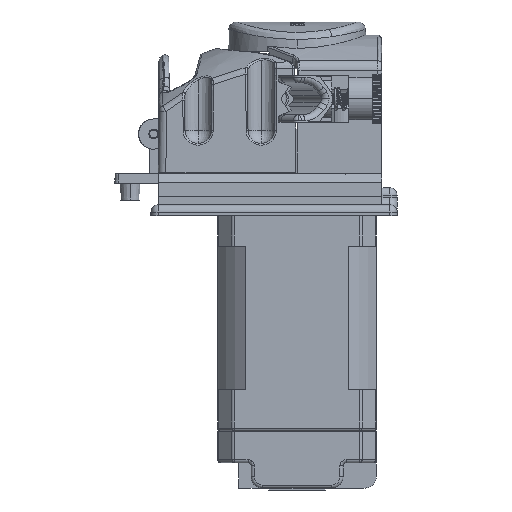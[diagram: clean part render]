
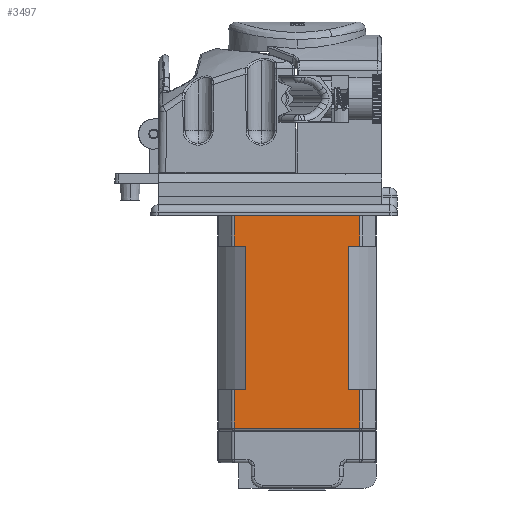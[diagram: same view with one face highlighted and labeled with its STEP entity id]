
A CAD part, left-side view. The second image highlights one B-rep face of the part: STEP entity #3497.
In plain terms, the highlighted planar face has unit normal (-1, 0, 0).
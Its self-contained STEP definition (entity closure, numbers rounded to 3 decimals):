
#1457 = CARTESIAN_POINT ( 'NONE',  ( -21., 16.669, -65.15 ) ) ;
#1745 = VERTEX_POINT ( 'NONE', #8062 ) ;
#2028 = ORIENTED_EDGE ( 'NONE', *, *, #34001, .T. ) ;
#2205 = DIRECTION ( 'NONE',  ( 0., -1., 0. ) ) ;
#2294 = CARTESIAN_POINT ( 'NONE',  ( -21., -13.565, -16.15 ) ) ;
#2759 = DIRECTION ( 'NONE',  ( 0., 1., 0. ) ) ;
#2805 = VECTOR ( 'NONE', #10081, 1000. ) ;
#3497 = ADVANCED_FACE ( 'NONE', ( #62953 ), #48570, .F. ) ;
#4245 = CARTESIAN_POINT ( 'NONE',  ( -21., -16.669, -64.35 ) ) ;
#4365 = CARTESIAN_POINT ( 'NONE',  ( -21., 16.669, -64.35 ) ) ;
#5039 = VECTOR ( 'NONE', #38206, 1000. ) ;
#5194 = VECTOR ( 'NONE', #62608, 1000. ) ;
#5787 = CARTESIAN_POINT ( 'NONE',  ( -21., 21., -54.15 ) ) ;
#6078 = VERTEX_POINT ( 'NONE', #41397 ) ;
#6083 = EDGE_CURVE ( 'NONE', #20570, #9666, #64458, .T. ) ;
#6172 = VERTEX_POINT ( 'NONE', #2294 ) ;
#6666 = EDGE_CURVE ( 'NONE', #6172, #20570, #29924, .T. ) ;
#8062 = CARTESIAN_POINT ( 'NONE',  ( -21., 16.669, -16.15 ) ) ;
#8867 = LINE ( 'NONE', #62907, #36016 ) ;
#9666 = VERTEX_POINT ( 'NONE', #34396 ) ;
#9787 = EDGE_LOOP ( 'NONE', ( #22144, #31396, #58029, #2028, #37862, #10813, #50037, #29170, #37605, #60037, #23975, #30200 ) ) ;
#10081 = DIRECTION ( 'NONE',  ( 0., -1., 0. ) ) ;
#10813 = ORIENTED_EDGE ( 'NONE', *, *, #40671, .F. ) ;
#11631 = VECTOR ( 'NONE', #51744, 1000. ) ;
#12235 = VECTOR ( 'NONE', #2205, 1000. ) ;
#14288 = CARTESIAN_POINT ( 'NONE',  ( -21., -13.565, -54.15 ) ) ;
#14308 = LINE ( 'NONE', #52596, #65535 ) ;
#14521 = EDGE_CURVE ( 'NONE', #6078, #16062, #25729, .T. ) ;
#15015 = CARTESIAN_POINT ( 'NONE',  ( -21., -16.669, -54.15 ) ) ;
#16010 = DIRECTION ( 'NONE',  ( 0., -1., 0. ) ) ;
#16062 = VERTEX_POINT ( 'NONE', #15015 ) ;
#16082 = CARTESIAN_POINT ( 'NONE',  ( -21., 21., -16.15 ) ) ;
#16436 = EDGE_CURVE ( 'NONE', #6172, #6078, #52072, .T. ) ;
#16454 = VERTEX_POINT ( 'NONE', #4245 ) ;
#17283 = CARTESIAN_POINT ( 'NONE',  ( -21., 21., -64.35 ) ) ;
#20570 = VERTEX_POINT ( 'NONE', #60720 ) ;
#21881 = CARTESIAN_POINT ( 'NONE',  ( -21., -16.669, -54.15 ) ) ;
#21921 = DIRECTION ( 'NONE',  ( 0., 0., -1. ) ) ;
#22144 = ORIENTED_EDGE ( 'NONE', *, *, #6666, .T. ) ;
#22427 = DIRECTION ( 'NONE',  ( 0., -1., 0. ) ) ;
#23975 = ORIENTED_EDGE ( 'NONE', *, *, #14521, .F. ) ;
#24382 = VERTEX_POINT ( 'NONE', #56853 ) ;
#24892 = VECTOR ( 'NONE', #16010, 1000. ) ;
#25729 = LINE ( 'NONE', #32808, #12235 ) ;
#27696 = EDGE_CURVE ( 'NONE', #50901, #16454, #42320, .T. ) ;
#29170 = ORIENTED_EDGE ( 'NONE', *, *, #65227, .T. ) ;
#29924 = LINE ( 'NONE', #30839, #2805 ) ;
#30179 = CARTESIAN_POINT ( 'NONE',  ( -21., 16.669, -5.95 ) ) ;
#30200 = ORIENTED_EDGE ( 'NONE', *, *, #16436, .F. ) ;
#30839 = CARTESIAN_POINT ( 'NONE',  ( -21., 21., -16.15 ) ) ;
#31396 = ORIENTED_EDGE ( 'NONE', *, *, #6083, .T. ) ;
#32205 = VERTEX_POINT ( 'NONE', #37158 ) ;
#32218 = EDGE_CURVE ( 'NONE', #9666, #53078, #8867, .T. ) ;
#32224 = LINE ( 'NONE', #63745, #5039 ) ;
#32368 = CARTESIAN_POINT ( 'NONE',  ( -21., 13.565, -54.15 ) ) ;
#32808 = CARTESIAN_POINT ( 'NONE',  ( -21., 21., -54.15 ) ) ;
#33349 = DIRECTION ( 'NONE',  ( 1., 0., 0. ) ) ;
#34001 = EDGE_CURVE ( 'NONE', #53078, #1745, #14308, .T. ) ;
#34396 = CARTESIAN_POINT ( 'NONE',  ( -21., -16.669, -5.95 ) ) ;
#34845 = DIRECTION ( 'NONE',  ( 0., 0., -1. ) ) ;
#36016 = VECTOR ( 'NONE', #37368, 1000. ) ;
#36272 = CARTESIAN_POINT ( 'NONE',  ( -21., -16.669, -5.15 ) ) ;
#37158 = CARTESIAN_POINT ( 'NONE',  ( -21., 13.565, -16.15 ) ) ;
#37368 = DIRECTION ( 'NONE',  ( 0., 1., 0. ) ) ;
#37605 = ORIENTED_EDGE ( 'NONE', *, *, #27696, .T. ) ;
#37862 = ORIENTED_EDGE ( 'NONE', *, *, #53191, .T. ) ;
#38206 = DIRECTION ( 'NONE',  ( 0., 0., 1. ) ) ;
#40671 = EDGE_CURVE ( 'NONE', #61604, #32205, #32224, .T. ) ;
#41397 = CARTESIAN_POINT ( 'NONE',  ( -21., -13.565, -54.15 ) ) ;
#42320 = LINE ( 'NONE', #17283, #54419 ) ;
#44413 = EDGE_CURVE ( 'NONE', #16454, #16062, #59583, .T. ) ;
#47255 = DIRECTION ( 'NONE',  ( 0., 0., -1. ) ) ;
#47324 = LINE ( 'NONE', #1457, #60963 ) ;
#48570 = PLANE ( 'NONE',  #62895 ) ;
#50037 = ORIENTED_EDGE ( 'NONE', *, *, #54549, .F. ) ;
#50590 = LINE ( 'NONE', #5787, #24892 ) ;
#50721 = VECTOR ( 'NONE', #51908, 1000. ) ;
#50901 = VERTEX_POINT ( 'NONE', #4365 ) ;
#51744 = DIRECTION ( 'NONE',  ( 0., 0., 1. ) ) ;
#51908 = DIRECTION ( 'NONE',  ( 0., -1., 0. ) ) ;
#52072 = LINE ( 'NONE', #14288, #53695 ) ;
#52596 = CARTESIAN_POINT ( 'NONE',  ( -21., 16.669, -16.15 ) ) ;
#53078 = VERTEX_POINT ( 'NONE', #30179 ) ;
#53191 = EDGE_CURVE ( 'NONE', #1745, #32205, #64335, .T. ) ;
#53695 = VECTOR ( 'NONE', #34845, 1000. ) ;
#54419 = VECTOR ( 'NONE', #22427, 1000. ) ;
#54549 = EDGE_CURVE ( 'NONE', #24382, #61604, #50590, .T. ) ;
#56853 = CARTESIAN_POINT ( 'NONE',  ( -21., 16.669, -54.15 ) ) ;
#58029 = ORIENTED_EDGE ( 'NONE', *, *, #32218, .T. ) ;
#59583 = LINE ( 'NONE', #21881, #5194 ) ;
#60037 = ORIENTED_EDGE ( 'NONE', *, *, #44413, .T. ) ;
#60720 = CARTESIAN_POINT ( 'NONE',  ( -21., -16.669, -16.15 ) ) ;
#60963 = VECTOR ( 'NONE', #47255, 1000. ) ;
#61604 = VERTEX_POINT ( 'NONE', #32368 ) ;
#62608 = DIRECTION ( 'NONE',  ( 0., 0., 1. ) ) ;
#62895 = AXIS2_PLACEMENT_3D ( 'NONE', #64009, #33349, #2759 ) ;
#62907 = CARTESIAN_POINT ( 'NONE',  ( -21., 17., -5.95 ) ) ;
#62953 = FACE_OUTER_BOUND ( 'NONE', #9787, .T. ) ;
#63745 = CARTESIAN_POINT ( 'NONE',  ( -21., 13.565, -54.15 ) ) ;
#64009 = CARTESIAN_POINT ( 'NONE',  ( -21., 21., -5.15 ) ) ;
#64335 = LINE ( 'NONE', #16082, #50721 ) ;
#64458 = LINE ( 'NONE', #36272, #11631 ) ;
#65227 = EDGE_CURVE ( 'NONE', #24382, #50901, #47324, .T. ) ;
#65535 = VECTOR ( 'NONE', #21921, 1000. ) ;
